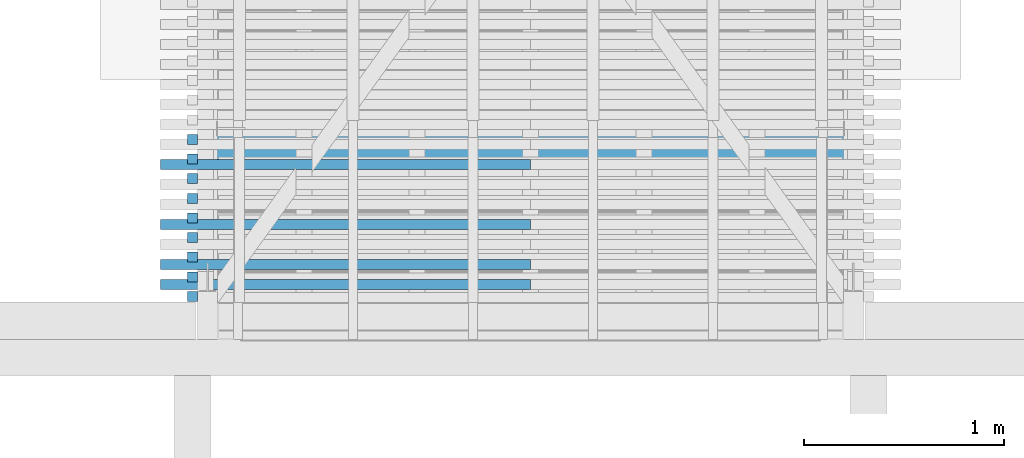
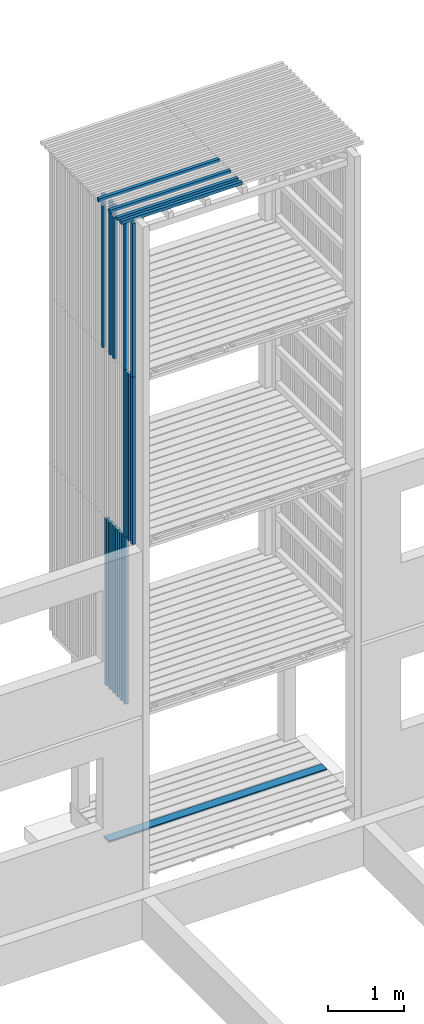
# One storey, part 34 of 182: 19 beams.
"""IFC2X3 building model written with IfcOpenShell, lengths in metres."""

from ifc_helpers import new_model, si_unit, frame, origin, place, context, project, spatial, faceted_brep, element, save


model = new_model("IFC2X3")

# Units and contexts
model_context = context("Model", 3, precision=1e-06, world=origin())
ifc_project = project(units=[si_unit("LENGTHUNIT", "METRE"), si_unit("PLANEANGLEUNIT", "RADIAN")], contexts=[model_context])

# Site, building, storey
site = spatial("IfcSite", under=ifc_project, CompositionType="ELEMENT")
building = spatial("IfcBuilding", under=site, CompositionType="ELEMENT")
storey = spatial("IfcBuildingStorey", under=building, Name="vs", CompositionType="ELEMENT", Elevation=-0.85)

# Beams
placement = place(None, origin())
beam_1_placement = place(placement, frame((16.654197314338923, 11.434577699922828, 0.033500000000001), z_axis=(0.0, 0.0, 1.0), x_axis=(-1.0, 0.0, 0.0)))
element("IfcBeam", 1, at=beam_1_placement, inside=storey, Name="Caillebotis", context=model_context, shape_type="Brep", body=[
    faceted_brep([(3.329999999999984, -0.067499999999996, 0.0135), (3.329999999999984, -0.072499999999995, 0.008500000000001), (3.329999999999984, -0.072499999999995, -0.013500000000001), (3.329999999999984, 0.072500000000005, -0.013500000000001), (3.329999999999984, 0.072500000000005, 0.0085), (3.329999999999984, 0.067500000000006, 0.0135), (0.0, 0.067500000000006, 0.0135), (0.0, 0.072500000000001, 0.0085), (0.0, 0.072500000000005, -0.013500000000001), (0.0, -0.072499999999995, -0.013500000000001), (0.0, -0.072499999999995, 0.008500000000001), (0.0, -0.067499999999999, 0.0135), (3.329999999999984, -0.072499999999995, -0.013500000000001), (3.329999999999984, -0.072499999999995, 0.008500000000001), (0.0, -0.072499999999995, 0.008500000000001), (0.0, -0.072499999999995, -0.013500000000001), (3.329999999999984, 0.072500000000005, -0.013500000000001), (3.329999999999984, -0.072499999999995, -0.013500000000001), (0.0, -0.072499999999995, -0.013500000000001), (0.0, 0.072500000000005, -0.013500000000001), (3.329999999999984, 0.072500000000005, 0.0085), (3.329999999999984, 0.072500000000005, -0.013500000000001), (0.0, 0.072500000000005, -0.013500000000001), (0.0, 0.072500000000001, 0.0085), (3.329999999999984, 0.067500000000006, 0.0135), (3.329999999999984, 0.072500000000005, 0.0085), (0.0, 0.072500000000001, 0.0085), (0.0, 0.067500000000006, 0.0135), (3.329999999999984, -0.067499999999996, 0.0135), (3.329999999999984, 0.067500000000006, 0.0135), (0.0, 0.067500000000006, 0.0135), (0.0, -0.067499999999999, 0.0135), (0.0, -0.072499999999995, 0.008500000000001), (3.329999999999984, -0.072499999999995, 0.008500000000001), (3.329999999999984, -0.067499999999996, 0.0135), (0.0, -0.067499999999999, 0.0135)], [[[0, 1, 2, 3, 4, 5]], [[6, 7, 8, 9, 10, 11]], [[12, 13, 14, 15]], [[16, 17, 18, 19]], [[20, 21, 22, 23]], [[24, 25, 26, 27]], [[28, 29, 30, 31]], [[32, 33, 34, 35]]]),
])
beam_2_placement = place(placement, frame((14.989197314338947, 11.045077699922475, 10.47999999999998), z_axis=(0.0, 0.0, 1.0), x_axis=(-1.0, -2e-15, 0.0)))
element("IfcBeam", 2, at=beam_2_placement, inside=storey, Name="Bardage", context=model_context, shape_type="Brep", body=[
    faceted_brep([(1.850000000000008, -0.025000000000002, -0.024999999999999), (1.850000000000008, -0.025000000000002, 0.025000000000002), (-1e-15, -0.025000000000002, 0.025000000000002), (-1e-15, -0.025000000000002, -0.024999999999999), (1.850000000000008, -0.025000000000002, 0.025000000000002), (1.850000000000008, -0.025000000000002, -0.024999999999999), (1.850000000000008, 0.024999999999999, -0.024999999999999), (1.850000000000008, 0.024999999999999, 0.025000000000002), (1.850000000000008, 0.024999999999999, -0.024999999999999), (1.850000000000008, -0.025000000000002, -0.024999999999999), (-1e-15, -0.025000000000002, -0.024999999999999), (-1e-15, 0.025000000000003, -0.024999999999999), (1.850000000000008, 0.024999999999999, 0.025000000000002), (1.850000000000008, 0.024999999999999, -0.024999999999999), (-1e-15, 0.025000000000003, -0.024999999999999), (-1e-15, 0.025000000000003, 0.025000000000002), (-1e-15, -0.025000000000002, 0.025000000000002), (1.850000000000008, -0.025000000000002, 0.025000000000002), (1.850000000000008, 0.024999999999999, 0.025000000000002), (-1e-15, 0.025000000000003, 0.025000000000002), (-1e-15, -0.025000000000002, -0.024999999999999), (-1e-15, -0.025000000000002, 0.025000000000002), (-1e-15, 0.025000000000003, 0.025000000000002), (-1e-15, 0.025000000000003, -0.024999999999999)], [[[0, 1, 2, 3]], [[4, 5, 6, 7]], [[8, 9, 10, 11]], [[12, 13, 14, 15]], [[16, 17, 18, 19]], [[20, 21, 22, 23]]]),
])
beam_3_placement = place(placement, frame((14.989197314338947, 11.345077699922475, 10.47999999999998), z_axis=(0.0, 0.0, 1.0), x_axis=(-1.0, 0.0, 0.0)))
element("IfcBeam", 3, at=beam_3_placement, inside=storey, Name="Bardage", context=model_context, shape_type="Brep", body=[
    faceted_brep([(1.850000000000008, -0.024999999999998, -0.024999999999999), (1.850000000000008, -0.024999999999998, 0.025000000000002), (-1e-15, -0.024999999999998, 0.025000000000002), (-1e-15, -0.024999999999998, -0.024999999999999), (1.850000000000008, -0.024999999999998, 0.025000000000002), (1.850000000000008, -0.024999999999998, -0.024999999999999), (1.850000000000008, 0.025000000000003, -0.024999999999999), (1.850000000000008, 0.025000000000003, 0.025000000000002), (1.850000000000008, 0.025000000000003, -0.024999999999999), (1.850000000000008, -0.024999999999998, -0.024999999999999), (-1e-15, -0.024999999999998, -0.024999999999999), (-1e-15, 0.024999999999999, -0.024999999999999), (1.850000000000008, 0.025000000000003, 0.025000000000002), (1.850000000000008, 0.025000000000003, -0.024999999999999), (-1e-15, 0.024999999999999, -0.024999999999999), (-1e-15, 0.024999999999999, 0.025000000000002), (-1e-15, -0.024999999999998, 0.025000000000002), (1.850000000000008, -0.024999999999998, 0.025000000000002), (1.850000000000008, 0.025000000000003, 0.025000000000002), (-1e-15, 0.024999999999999, 0.025000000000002), (-1e-15, -0.024999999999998, -0.024999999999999), (-1e-15, -0.024999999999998, 0.025000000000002), (-1e-15, 0.024999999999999, 0.025000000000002), (-1e-15, 0.024999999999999, -0.024999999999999)], [[[0, 1, 2, 3]], [[4, 5, 6, 7]], [[8, 9, 10, 11]], [[12, 13, 14, 15]], [[16, 17, 18, 19]], [[20, 21, 22, 23]]]),
])
beam_4_placement = place(placement, frame((13.299197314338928, 11.37235042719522, 2.575000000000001), z_axis=(1.0, 0.0, 0.0), x_axis=(0.0, 0.0, 1.0)))
element("IfcBeam", 4, at=beam_4_placement, inside=storey, Name="Bardage", context=model_context, shape_type="Brep", body=[
    faceted_brep([(2.699961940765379, -0.024999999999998, 0.025000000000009), (2.699961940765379, -0.024999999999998, -0.025000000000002), (2.699961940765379, 0.024999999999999, -0.025000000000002), (2.699961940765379, 0.024999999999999, 0.025000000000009), (0.0, -0.024999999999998, 0.025000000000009), (2.699961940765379, -0.024999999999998, 0.025000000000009), (2.699961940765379, 0.024999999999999, 0.025000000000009), (0.0, 0.024999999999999, 0.025000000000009), (0.0, -0.024999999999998, 0.025000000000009), (0.0, 0.024999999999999, 0.025000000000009), (0.0, 0.024999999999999, -0.025000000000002), (0.0, -0.024999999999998, -0.025000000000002), (0.0, -0.024999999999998, 0.025000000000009), (0.0, -0.024999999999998, -0.025000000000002), (2.699961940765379, -0.024999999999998, -0.025000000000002), (2.699961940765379, -0.024999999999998, 0.025000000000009), (0.0, -0.024999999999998, -0.025000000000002), (0.0, 0.024999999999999, -0.025000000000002), (2.699961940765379, 0.024999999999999, -0.025000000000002), (2.699961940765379, -0.024999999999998, -0.025000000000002), (0.0, 0.024999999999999, -0.025000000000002), (0.0, 0.024999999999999, 0.025000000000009), (2.699961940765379, 0.024999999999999, 0.025000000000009), (2.699961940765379, 0.024999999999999, -0.025000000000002)], [[[0, 1, 2, 3]], [[4, 5, 6, 7]], [[8, 9, 10, 11]], [[12, 13, 14, 15]], [[16, 17, 18, 19]], [[20, 21, 22, 23]]]),
])
beam_5_placement = place(placement, frame((13.299197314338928, 11.175986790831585, 2.575000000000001), z_axis=(1.0, 0.0, 0.0), x_axis=(0.0, 0.0, 1.0)))
element("IfcBeam", 5, at=beam_5_placement, inside=storey, Name="Bardage", context=model_context, shape_type="Brep", body=[
    faceted_brep([(2.699961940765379, -0.025000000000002, 0.025000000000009), (2.699961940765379, -0.025000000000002, -0.025000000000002), (2.699961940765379, 0.024999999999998, -0.025000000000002), (2.699961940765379, 0.024999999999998, 0.025000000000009), (0.0, -0.024999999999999, 0.025000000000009), (2.699961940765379, -0.025000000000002, 0.025000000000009), (2.699961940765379, 0.024999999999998, 0.025000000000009), (0.0, 0.024999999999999, 0.025000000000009), (0.0, -0.024999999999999, 0.025000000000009), (0.0, 0.024999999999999, 0.025000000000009), (0.0, 0.024999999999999, -0.025000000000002), (0.0, -0.024999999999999, -0.025000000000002), (0.0, -0.024999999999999, 0.025000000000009), (0.0, -0.024999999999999, -0.025000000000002), (2.699961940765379, -0.025000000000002, -0.025000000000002), (2.699961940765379, -0.025000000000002, 0.025000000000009), (0.0, -0.024999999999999, -0.025000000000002), (0.0, 0.024999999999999, -0.025000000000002), (2.699961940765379, 0.024999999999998, -0.025000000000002), (2.699961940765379, -0.025000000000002, -0.025000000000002), (0.0, 0.024999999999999, -0.025000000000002), (0.0, 0.024999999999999, 0.025000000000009), (2.699961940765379, 0.024999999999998, 0.025000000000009), (2.699961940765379, 0.024999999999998, -0.025000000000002)], [[[0, 1, 2, 3]], [[4, 5, 6, 7]], [[8, 9, 10, 11]], [[12, 13, 14, 15]], [[16, 17, 18, 19]], [[20, 21, 22, 23]]]),
])
beam_6_placement = place(placement, frame((13.299197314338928, 11.274168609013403, 7.974999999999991), z_axis=(1.0, 0.0, 0.0), x_axis=(0.0, 0.0, 1.0)))
element("IfcBeam", 6, at=beam_6_placement, inside=storey, Name="Bardage", context=model_context, shape_type="Brep", body=[
    faceted_brep([(0.0, -0.025000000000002, 0.025000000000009), (0.0, 0.025000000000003, 0.025000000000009), (0.0, 0.025000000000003, -0.025000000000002), (0.0, -0.025000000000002, -0.025000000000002), (2.479999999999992, 0.025000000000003, -0.025000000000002), (2.479999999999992, 0.025000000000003, 0.025000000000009), (2.479999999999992, -0.025000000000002, 0.025000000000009), (2.479999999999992, -0.025000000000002, -0.025000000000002), (0.0, 0.025000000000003, 0.025000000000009), (0.0, -0.025000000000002, 0.025000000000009), (2.479999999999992, -0.025000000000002, 0.025000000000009), (2.479999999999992, 0.025000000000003, 0.025000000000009), (0.0, 0.025000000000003, -0.025000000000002), (0.0, 0.025000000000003, 0.025000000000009), (2.479999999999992, 0.025000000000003, 0.025000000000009), (2.479999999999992, 0.025000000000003, -0.025000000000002), (0.0, -0.025000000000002, -0.025000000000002), (0.0, 0.025000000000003, -0.025000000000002), (2.479999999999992, 0.025000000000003, -0.025000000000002), (2.479999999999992, -0.025000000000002, -0.025000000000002), (2.479999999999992, -0.025000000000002, 0.025000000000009), (0.0, -0.025000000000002, 0.025000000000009), (0.0, -0.025000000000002, -0.025000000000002), (2.479999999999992, -0.025000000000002, -0.025000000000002)], [[[0, 1, 2, 3]], [[4, 5, 6, 7]], [[8, 9, 10, 11]], [[12, 13, 14, 15]], [[16, 17, 18, 19]], [[20, 21, 22, 23]]]),
])
beam_7_placement = place(placement, frame((13.299197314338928, 11.274168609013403, 2.575000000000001), z_axis=(1.0, 0.0, 0.0), x_axis=(0.0, 1e-15, 1.0)))
element("IfcBeam", 7, at=beam_7_placement, inside=storey, Name="Bardage", context=model_context, shape_type="Brep", body=[
    faceted_brep([(2.699961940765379, -0.024999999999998, 0.025000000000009), (2.699961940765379, -0.024999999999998, -0.025000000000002), (2.699961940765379, 0.025000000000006, -0.025000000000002), (2.699961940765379, 0.025000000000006, 0.025000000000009), (0.0, -0.025000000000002, 0.025000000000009), (2.699961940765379, -0.024999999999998, 0.025000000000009), (2.699961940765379, 0.025000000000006, 0.025000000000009), (0.0, 0.025000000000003, 0.025000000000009), (0.0, -0.025000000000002, 0.025000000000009), (0.0, 0.025000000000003, 0.025000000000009), (0.0, 0.025000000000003, -0.025000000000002), (0.0, -0.025000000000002, -0.025000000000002), (0.0, -0.025000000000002, 0.025000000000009), (0.0, -0.025000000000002, -0.025000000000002), (2.699961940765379, -0.024999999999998, -0.025000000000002), (2.699961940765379, -0.024999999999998, 0.025000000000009), (0.0, -0.025000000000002, -0.025000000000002), (0.0, 0.025000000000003, -0.025000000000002), (2.699961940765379, 0.025000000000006, -0.025000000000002), (2.699961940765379, -0.024999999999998, -0.025000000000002), (0.0, 0.025000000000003, -0.025000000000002), (0.0, 0.025000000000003, 0.025000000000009), (2.699961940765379, 0.025000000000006, 0.025000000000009), (2.699961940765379, 0.025000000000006, -0.025000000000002)], [[[0, 1, 2, 3]], [[4, 5, 6, 7]], [[8, 9, 10, 11]], [[12, 13, 14, 15]], [[16, 17, 18, 19]], [[20, 21, 22, 23]]]),
])
beam_8_placement = place(placement, frame((13.299197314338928, 10.685077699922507, 5.274999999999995), z_axis=(1.0, 0.0, 0.0), x_axis=(0.0, 0.0, 1.0)))
element("IfcBeam", 8, at=beam_8_placement, inside=storey, Name="Bardage", context=model_context, shape_type="Brep", body=[
    faceted_brep([(2.699999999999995, 0.025000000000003, 0.025000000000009), (2.699999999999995, -0.024999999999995, 0.025000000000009), (2.699999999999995, -0.024999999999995, -0.025000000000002), (2.699999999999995, 0.025000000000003, -0.025000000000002), (1e-15, 0.025000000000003, 0.025000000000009), (2.699999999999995, 0.025000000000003, 0.025000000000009), (2.699999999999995, 0.025000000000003, -0.025000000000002), (1e-15, 0.025000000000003, -0.025000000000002), (1e-15, -0.024999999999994, 0.025000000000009), (1e-15, 0.025000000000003, 0.025000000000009), (1e-15, 0.025000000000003, -0.025000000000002), (1e-15, -0.024999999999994, -0.025000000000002), (1e-15, 0.025000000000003, 0.025000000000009), (1e-15, -0.024999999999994, 0.025000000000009), (2.699999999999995, -0.024999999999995, 0.025000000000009), (2.699999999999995, 0.025000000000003, 0.025000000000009), (1e-15, -0.024999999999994, 0.025000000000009), (1e-15, -0.024999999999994, -0.025000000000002), (2.699999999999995, -0.024999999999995, -0.025000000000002), (2.699999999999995, -0.024999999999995, 0.025000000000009), (1e-15, -0.024999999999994, -0.025000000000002), (1e-15, 0.025000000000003, -0.025000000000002), (2.699999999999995, 0.025000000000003, -0.025000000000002), (2.699999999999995, -0.024999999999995, -0.025000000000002)], [[[0, 1, 2, 3]], [[4, 5, 6, 7]], [[8, 9, 10, 11]], [[12, 13, 14, 15]], [[16, 17, 18, 19]], [[20, 21, 22, 23]]]),
])
beam_9_placement = place(placement, frame((13.299197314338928, 11.07780497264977, 2.575000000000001), z_axis=(1.0, 0.0, 0.0), x_axis=(0.0, 0.0, 1.0)))
element("IfcBeam", 9, at=beam_9_placement, inside=storey, Name="Bardage", context=model_context, shape_type="Brep", body=[
    faceted_brep([(2.699961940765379, -0.024999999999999, 0.025000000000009), (2.699961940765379, -0.024999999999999, -0.025000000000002), (2.699961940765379, 0.025000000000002, -0.025000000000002), (2.699961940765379, 0.025000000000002, 0.025000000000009), (0.0, -0.024999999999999, 0.025000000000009), (2.699961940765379, -0.024999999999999, 0.025000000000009), (2.699961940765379, 0.025000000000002, 0.025000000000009), (0.0, 0.025000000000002, 0.025000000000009), (0.0, -0.024999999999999, 0.025000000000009), (0.0, 0.025000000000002, 0.025000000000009), (0.0, 0.025000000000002, -0.025000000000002), (0.0, -0.024999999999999, -0.025000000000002), (0.0, -0.024999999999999, 0.025000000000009), (0.0, -0.024999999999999, -0.025000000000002), (2.699961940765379, -0.024999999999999, -0.025000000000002), (2.699961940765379, -0.024999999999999, 0.025000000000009), (0.0, -0.024999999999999, -0.025000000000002), (0.0, 0.025000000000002, -0.025000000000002), (2.699961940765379, 0.025000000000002, -0.025000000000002), (2.699961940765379, -0.024999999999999, -0.025000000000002), (0.0, 0.025000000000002, -0.025000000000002), (0.0, 0.025000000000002, 0.025000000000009), (2.699961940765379, 0.025000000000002, 0.025000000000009), (2.699961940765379, 0.025000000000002, -0.025000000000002)], [[[0, 1, 2, 3]], [[4, 5, 6, 7]], [[8, 9, 10, 11]], [[12, 13, 14, 15]], [[16, 17, 18, 19]], [[20, 21, 22, 23]]]),
])
beam_10_placement = place(placement, frame((13.299197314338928, 10.881441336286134, 2.575000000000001), z_axis=(1.0, 0.0, 0.0), x_axis=(0.0, 0.0, 1.0)))
element("IfcBeam", 10, at=beam_10_placement, inside=storey, Name="Bardage", context=model_context, shape_type="Brep", body=[
    faceted_brep([(2.699961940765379, -0.024999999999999, 0.025000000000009), (2.699961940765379, -0.024999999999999, -0.025000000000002), (2.699961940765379, 0.024999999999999, -0.025000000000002), (2.699961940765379, 0.024999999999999, 0.025000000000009), (0.0, -0.024999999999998, 0.025000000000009), (2.699961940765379, -0.024999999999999, 0.025000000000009), (2.699961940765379, 0.024999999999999, 0.025000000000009), (0.0, 0.024999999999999, 0.025000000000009), (0.0, -0.024999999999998, 0.025000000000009), (0.0, 0.024999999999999, 0.025000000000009), (0.0, 0.024999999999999, -0.025000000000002), (0.0, -0.024999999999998, -0.025000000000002), (0.0, -0.024999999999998, 0.025000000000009), (0.0, -0.024999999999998, -0.025000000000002), (2.699961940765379, -0.024999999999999, -0.025000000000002), (2.699961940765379, -0.024999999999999, 0.025000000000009), (0.0, -0.024999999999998, -0.025000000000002), (0.0, 0.024999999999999, -0.025000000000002), (2.699961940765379, 0.024999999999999, -0.025000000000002), (2.699961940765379, -0.024999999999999, -0.025000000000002), (0.0, 0.024999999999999, -0.025000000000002), (0.0, 0.024999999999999, 0.025000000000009), (2.699961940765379, 0.024999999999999, 0.025000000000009), (2.699961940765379, 0.024999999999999, -0.025000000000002)], [[[0, 1, 2, 3]], [[4, 5, 6, 7]], [[8, 9, 10, 11]], [[12, 13, 14, 15]], [[16, 17, 18, 19]], [[20, 21, 22, 23]]]),
])
beam_11_placement = place(placement, frame((13.299197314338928, 10.881441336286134, 5.274999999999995), z_axis=(1.0, 0.0, 0.0), x_axis=(0.0, 0.0, 1.0)))
element("IfcBeam", 11, at=beam_11_placement, inside=storey, Name="Bardage", context=model_context, shape_type="Brep", body=[
    faceted_brep([(2.699999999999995, 0.024999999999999, 0.025000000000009), (2.699999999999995, -0.024999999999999, 0.025000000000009), (2.699999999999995, -0.024999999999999, -0.025000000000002), (2.699999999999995, 0.024999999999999, -0.025000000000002), (1e-15, 0.024999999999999, 0.025000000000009), (2.699999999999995, 0.024999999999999, 0.025000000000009), (2.699999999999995, 0.024999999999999, -0.025000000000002), (1e-15, 0.024999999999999, -0.025000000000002), (1e-15, -0.024999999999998, 0.025000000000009), (1e-15, 0.024999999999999, 0.025000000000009), (1e-15, 0.024999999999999, -0.025000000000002), (1e-15, -0.024999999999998, -0.025000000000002), (1e-15, 0.024999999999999, 0.025000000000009), (1e-15, -0.024999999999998, 0.025000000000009), (2.699999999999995, -0.024999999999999, 0.025000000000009), (2.699999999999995, 0.024999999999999, 0.025000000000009), (1e-15, -0.024999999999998, 0.025000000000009), (1e-15, -0.024999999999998, -0.025000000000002), (2.699999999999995, -0.024999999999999, -0.025000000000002), (2.699999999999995, -0.024999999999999, 0.025000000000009), (1e-15, -0.024999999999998, -0.025000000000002), (1e-15, 0.024999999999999, -0.025000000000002), (2.699999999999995, 0.024999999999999, -0.025000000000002), (2.699999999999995, -0.024999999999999, -0.025000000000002)], [[[0, 1, 2, 3]], [[4, 5, 6, 7]], [[8, 9, 10, 11]], [[12, 13, 14, 15]], [[16, 17, 18, 19]], [[20, 21, 22, 23]]]),
])
beam_12_placement = place(placement, frame((13.299197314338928, 11.470532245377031, 7.974999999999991), z_axis=(1.0, 0.0, 0.0), x_axis=(0.0, 0.0, 1.0)))
element("IfcBeam", 12, at=beam_12_placement, inside=storey, Name="Bardage", context=model_context, shape_type="Brep", body=[
    faceted_brep([(0.0, -0.025000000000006, 0.025000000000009), (0.0, 0.024999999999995, 0.025000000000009), (0.0, 0.024999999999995, -0.025000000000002), (0.0, -0.025000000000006, -0.025000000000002), (2.479999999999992, 0.024999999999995, -0.025000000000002), (2.479999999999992, 0.024999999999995, 0.025000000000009), (2.479999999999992, -0.025000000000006, 0.025000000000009), (2.479999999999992, -0.025000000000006, -0.025000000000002), (0.0, 0.024999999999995, 0.025000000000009), (0.0, -0.025000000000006, 0.025000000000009), (2.479999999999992, -0.025000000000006, 0.025000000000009), (2.479999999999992, 0.024999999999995, 0.025000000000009), (0.0, 0.024999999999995, -0.025000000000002), (0.0, 0.024999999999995, 0.025000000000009), (2.479999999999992, 0.024999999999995, 0.025000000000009), (2.479999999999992, 0.024999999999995, -0.025000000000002), (0.0, -0.025000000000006, -0.025000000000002), (0.0, 0.024999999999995, -0.025000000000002), (2.479999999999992, 0.024999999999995, -0.025000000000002), (2.479999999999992, -0.025000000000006, -0.025000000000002), (2.479999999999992, -0.025000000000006, 0.025000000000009), (0.0, -0.025000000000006, 0.025000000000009), (0.0, -0.025000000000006, -0.025000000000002), (2.479999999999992, -0.025000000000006, -0.025000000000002)], [[[0, 1, 2, 3]], [[4, 5, 6, 7]], [[8, 9, 10, 11]], [[12, 13, 14, 15]], [[16, 17, 18, 19]], [[20, 21, 22, 23]]]),
])
beam_13_placement = place(placement, frame((13.299197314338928, 10.881441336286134, 7.974999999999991), z_axis=(1.0, 0.0, 0.0), x_axis=(0.0, 0.0, 1.0)))
element("IfcBeam", 13, at=beam_13_placement, inside=storey, Name="Bardage", context=model_context, shape_type="Brep", body=[
    faceted_brep([(0.0, -0.024999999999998, 0.025000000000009), (0.0, 0.024999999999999, 0.025000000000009), (0.0, 0.024999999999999, -0.025000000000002), (0.0, -0.024999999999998, -0.025000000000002), (2.479999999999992, 0.024999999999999, -0.025000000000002), (2.479999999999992, 0.024999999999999, 0.025000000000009), (2.479999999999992, -0.024999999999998, 0.025000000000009), (2.479999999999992, -0.024999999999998, -0.025000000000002), (0.0, 0.024999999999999, 0.025000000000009), (0.0, -0.024999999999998, 0.025000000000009), (2.479999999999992, -0.024999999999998, 0.025000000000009), (2.479999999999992, 0.024999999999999, 0.025000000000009), (0.0, 0.024999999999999, -0.025000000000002), (0.0, 0.024999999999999, 0.025000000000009), (2.479999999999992, 0.024999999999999, 0.025000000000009), (2.479999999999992, 0.024999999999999, -0.025000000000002), (0.0, -0.024999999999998, -0.025000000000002), (0.0, 0.024999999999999, -0.025000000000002), (2.479999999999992, 0.024999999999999, -0.025000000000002), (2.479999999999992, -0.024999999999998, -0.025000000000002), (2.479999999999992, -0.024999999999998, 0.025000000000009), (0.0, -0.024999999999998, 0.025000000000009), (0.0, -0.024999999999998, -0.025000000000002), (2.479999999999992, -0.024999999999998, -0.025000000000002)], [[[0, 1, 2, 3]], [[4, 5, 6, 7]], [[8, 9, 10, 11]], [[12, 13, 14, 15]], [[16, 17, 18, 19]], [[20, 21, 22, 23]]]),
])
beam_14_placement = place(placement, frame((14.989197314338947, 10.745077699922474, 10.47999999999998), z_axis=(0.0, 0.0, 1.0), x_axis=(-1.0, 0.0, 0.0)))
element("IfcBeam", 14, at=beam_14_placement, inside=storey, Name="Bardage", context=model_context, shape_type="Brep", body=[
    faceted_brep([(1.850000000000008, -0.025000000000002, -0.024999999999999), (1.850000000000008, -0.025000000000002, 0.025000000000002), (-1e-15, -0.025000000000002, 0.025000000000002), (-1e-15, -0.025000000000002, -0.024999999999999), (1.850000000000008, -0.025000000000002, 0.025000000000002), (1.850000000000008, -0.025000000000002, -0.024999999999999), (1.850000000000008, 0.024999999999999, -0.024999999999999), (1.850000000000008, 0.024999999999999, 0.025000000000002), (1.850000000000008, 0.024999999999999, -0.024999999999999), (1.850000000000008, -0.025000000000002, -0.024999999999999), (-1e-15, -0.025000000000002, -0.024999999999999), (-1e-15, 0.024999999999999, -0.024999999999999), (1.850000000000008, 0.024999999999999, 0.025000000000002), (1.850000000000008, 0.024999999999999, -0.024999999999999), (-1e-15, 0.024999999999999, -0.024999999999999), (-1e-15, 0.024999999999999, 0.025000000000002), (-1e-15, -0.025000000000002, 0.025000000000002), (1.850000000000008, -0.025000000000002, 0.025000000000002), (1.850000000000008, 0.024999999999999, 0.025000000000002), (-1e-15, 0.024999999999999, 0.025000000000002), (-1e-15, -0.025000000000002, -0.024999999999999), (-1e-15, -0.025000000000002, 0.025000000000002), (-1e-15, 0.024999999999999, 0.025000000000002), (-1e-15, 0.024999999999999, -0.024999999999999)], [[[0, 1, 2, 3]], [[4, 5, 6, 7]], [[8, 9, 10, 11]], [[12, 13, 14, 15]], [[16, 17, 18, 19]], [[20, 21, 22, 23]]]),
])
beam_15_placement = place(placement, frame((13.299197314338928, 11.175986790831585, 7.974999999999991), z_axis=(1.0, 0.0, 0.0), x_axis=(0.0, 0.0, 1.0)))
element("IfcBeam", 15, at=beam_15_placement, inside=storey, Name="Bardage", context=model_context, shape_type="Brep", body=[
    faceted_brep([(0.0, -0.024999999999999, 0.025000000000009), (0.0, 0.024999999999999, 0.025000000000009), (0.0, 0.024999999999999, -0.025000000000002), (0.0, -0.024999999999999, -0.025000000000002), (2.479999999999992, 0.024999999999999, -0.025000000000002), (2.479999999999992, 0.024999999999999, 0.025000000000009), (2.479999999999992, -0.024999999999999, 0.025000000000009), (2.479999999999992, -0.024999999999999, -0.025000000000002), (0.0, 0.024999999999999, 0.025000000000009), (0.0, -0.024999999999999, 0.025000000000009), (2.479999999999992, -0.024999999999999, 0.025000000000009), (2.479999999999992, 0.024999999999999, 0.025000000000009), (0.0, 0.024999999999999, -0.025000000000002), (0.0, 0.024999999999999, 0.025000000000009), (2.479999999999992, 0.024999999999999, 0.025000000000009), (2.479999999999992, 0.024999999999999, -0.025000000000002), (0.0, -0.024999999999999, -0.025000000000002), (0.0, 0.024999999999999, -0.025000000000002), (2.479999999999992, 0.024999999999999, -0.025000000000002), (2.479999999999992, -0.024999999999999, -0.025000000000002), (2.479999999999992, -0.024999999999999, 0.025000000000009), (0.0, -0.024999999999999, 0.025000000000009), (0.0, -0.024999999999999, -0.025000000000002), (2.479999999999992, -0.024999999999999, -0.025000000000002)], [[[0, 1, 2, 3]], [[4, 5, 6, 7]], [[8, 9, 10, 11]], [[12, 13, 14, 15]], [[16, 17, 18, 19]], [[20, 21, 22, 23]]]),
])
beam_16_placement = place(placement, frame((14.989197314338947, 10.845077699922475, 10.47999999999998), z_axis=(0.0, 0.0, 1.0), x_axis=(-1.0, 0.0, 0.0)))
element("IfcBeam", 16, at=beam_16_placement, inside=storey, Name="Bardage", context=model_context, shape_type="Brep", body=[
    faceted_brep([(1.850000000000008, -0.024999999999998, -0.024999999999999), (1.850000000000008, -0.024999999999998, 0.025000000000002), (-1e-15, -0.024999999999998, 0.025000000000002), (-1e-15, -0.024999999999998, -0.024999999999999), (1.850000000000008, -0.024999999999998, 0.025000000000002), (1.850000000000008, -0.024999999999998, -0.024999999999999), (1.850000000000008, 0.025000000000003, -0.024999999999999), (1.850000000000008, 0.025000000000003, 0.025000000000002), (1.850000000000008, 0.025000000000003, -0.024999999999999), (1.850000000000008, -0.024999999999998, -0.024999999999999), (-1e-15, -0.024999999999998, -0.024999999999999), (-1e-15, 0.025000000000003, -0.024999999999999), (1.850000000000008, 0.025000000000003, 0.025000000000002), (1.850000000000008, 0.025000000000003, -0.024999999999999), (-1e-15, 0.025000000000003, -0.024999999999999), (-1e-15, 0.025000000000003, 0.025000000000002), (-1e-15, -0.024999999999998, 0.025000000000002), (1.850000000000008, -0.024999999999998, 0.025000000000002), (1.850000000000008, 0.025000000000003, 0.025000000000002), (-1e-15, 0.025000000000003, 0.025000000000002), (-1e-15, -0.024999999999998, -0.024999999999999), (-1e-15, -0.024999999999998, 0.025000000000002), (-1e-15, 0.025000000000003, 0.025000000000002), (-1e-15, 0.025000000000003, -0.024999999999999)], [[[0, 1, 2, 3]], [[4, 5, 6, 7]], [[8, 9, 10, 11]], [[12, 13, 14, 15]], [[16, 17, 18, 19]], [[20, 21, 22, 23]]]),
])
beam_17_placement = place(placement, frame((13.299197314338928, 10.685077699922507, 7.974999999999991), z_axis=(1.0, 0.0, 0.0), x_axis=(0.0, 0.0, 1.0)))
element("IfcBeam", 17, at=beam_17_placement, inside=storey, Name="Bardage", context=model_context, shape_type="Brep", body=[
    faceted_brep([(0.0, -0.024999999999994, 0.025000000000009), (0.0, 0.025000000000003, 0.025000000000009), (0.0, 0.025000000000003, -0.025000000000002), (0.0, -0.024999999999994, -0.025000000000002), (2.479999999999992, 0.025000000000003, -0.025000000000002), (2.479999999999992, 0.025000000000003, 0.025000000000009), (2.479999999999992, -0.024999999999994, 0.025000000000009), (2.479999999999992, -0.024999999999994, -0.025000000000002), (0.0, 0.025000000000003, 0.025000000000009), (0.0, -0.024999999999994, 0.025000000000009), (2.479999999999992, -0.024999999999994, 0.025000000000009), (2.479999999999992, 0.025000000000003, 0.025000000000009), (0.0, 0.025000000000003, -0.025000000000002), (0.0, 0.025000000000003, 0.025000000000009), (2.479999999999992, 0.025000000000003, 0.025000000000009), (2.479999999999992, 0.025000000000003, -0.025000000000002), (0.0, -0.024999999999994, -0.025000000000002), (0.0, 0.025000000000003, -0.025000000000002), (2.479999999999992, 0.025000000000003, -0.025000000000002), (2.479999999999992, -0.024999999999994, -0.025000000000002), (2.479999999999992, -0.024999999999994, 0.025000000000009), (0.0, -0.024999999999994, 0.025000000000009), (0.0, -0.024999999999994, -0.025000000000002), (2.479999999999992, -0.024999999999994, -0.025000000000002)], [[[0, 1, 2, 3]], [[4, 5, 6, 7]], [[8, 9, 10, 11]], [[12, 13, 14, 15]], [[16, 17, 18, 19]], [[20, 21, 22, 23]]]),
])
beam_18_placement = place(placement, frame((13.299197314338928, 10.78325951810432, 5.274999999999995), z_axis=(1.0, 0.0, 0.0), x_axis=(0.0, 0.0, 1.0)))
element("IfcBeam", 18, at=beam_18_placement, inside=storey, Name="Bardage", context=model_context, shape_type="Brep", body=[
    faceted_brep([(2.699999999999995, 0.025000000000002, 0.025000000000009), (2.699999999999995, -0.024999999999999, 0.025000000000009), (2.699999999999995, -0.024999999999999, -0.025000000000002), (2.699999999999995, 0.025000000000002, -0.025000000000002), (1e-15, 0.025000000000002, 0.025000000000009), (2.699999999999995, 0.025000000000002, 0.025000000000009), (2.699999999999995, 0.025000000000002, -0.025000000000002), (1e-15, 0.025000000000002, -0.025000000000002), (1e-15, -0.024999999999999, 0.025000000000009), (1e-15, 0.025000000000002, 0.025000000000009), (1e-15, 0.025000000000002, -0.025000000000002), (1e-15, -0.024999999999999, -0.025000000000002), (1e-15, 0.025000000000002, 0.025000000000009), (1e-15, -0.024999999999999, 0.025000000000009), (2.699999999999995, -0.024999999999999, 0.025000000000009), (2.699999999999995, 0.025000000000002, 0.025000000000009), (1e-15, -0.024999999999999, 0.025000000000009), (1e-15, -0.024999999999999, -0.025000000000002), (2.699999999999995, -0.024999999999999, -0.025000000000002), (2.699999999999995, -0.024999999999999, 0.025000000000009), (1e-15, -0.024999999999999, -0.025000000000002), (1e-15, 0.025000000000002, -0.025000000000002), (2.699999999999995, 0.025000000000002, -0.025000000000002), (2.699999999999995, -0.024999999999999, -0.025000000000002)], [[[0, 1, 2, 3]], [[4, 5, 6, 7]], [[8, 9, 10, 11]], [[12, 13, 14, 15]], [[16, 17, 18, 19]], [[20, 21, 22, 23]]]),
])
beam_19_placement = place(placement, frame((13.299197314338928, 10.979623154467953, 2.575000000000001), z_axis=(1.0, 0.0, 0.0), x_axis=(0.0, 0.0, 1.0)))
element("IfcBeam", 19, at=beam_19_placement, inside=storey, Name="Bardage", context=model_context, shape_type="Brep", body=[
    faceted_brep([(2.699961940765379, -0.025000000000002, 0.025000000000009), (2.699961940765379, -0.025000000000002, -0.025000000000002), (2.699961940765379, 0.025000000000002, -0.025000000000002), (2.699961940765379, 0.025000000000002, 0.025000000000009), (0.0, -0.024999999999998, 0.025000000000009), (2.699961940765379, -0.025000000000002, 0.025000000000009), (2.699961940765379, 0.025000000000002, 0.025000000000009), (0.0, 0.025000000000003, 0.025000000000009), (0.0, -0.024999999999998, 0.025000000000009), (0.0, 0.025000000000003, 0.025000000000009), (0.0, 0.025000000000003, -0.025000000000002), (0.0, -0.024999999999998, -0.025000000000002), (0.0, -0.024999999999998, 0.025000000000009), (0.0, -0.024999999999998, -0.025000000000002), (2.699961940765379, -0.025000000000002, -0.025000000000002), (2.699961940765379, -0.025000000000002, 0.025000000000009), (0.0, -0.024999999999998, -0.025000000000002), (0.0, 0.025000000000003, -0.025000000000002), (2.699961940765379, 0.025000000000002, -0.025000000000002), (2.699961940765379, -0.025000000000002, -0.025000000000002), (0.0, 0.025000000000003, -0.025000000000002), (0.0, 0.025000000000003, 0.025000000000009), (2.699961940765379, 0.025000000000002, 0.025000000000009), (2.699961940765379, 0.025000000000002, -0.025000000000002)], [[[0, 1, 2, 3]], [[4, 5, 6, 7]], [[8, 9, 10, 11]], [[12, 13, 14, 15]], [[16, 17, 18, 19]], [[20, 21, 22, 23]]]),
])

save(model, "model.ifc")
